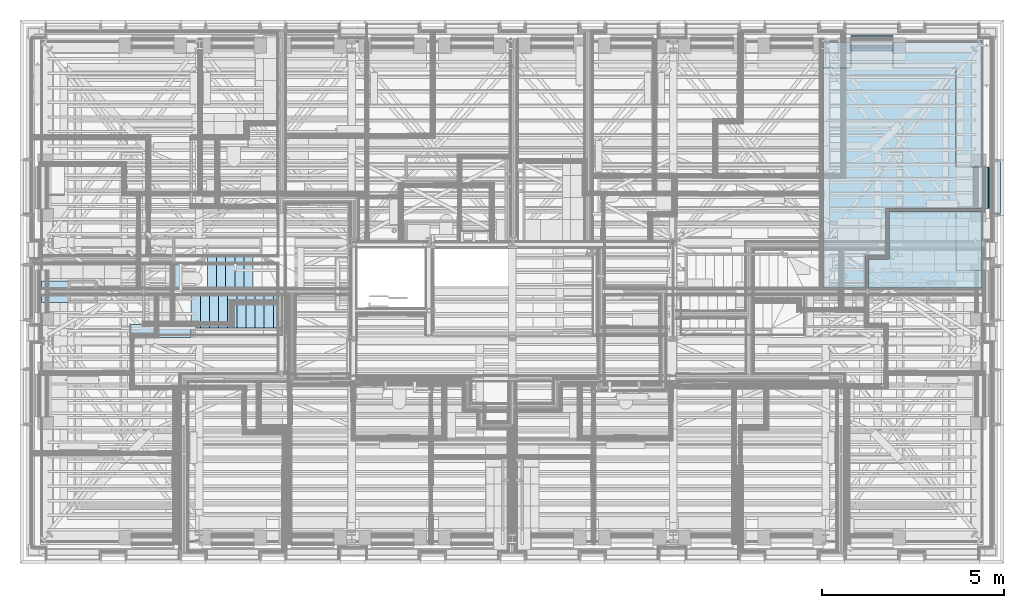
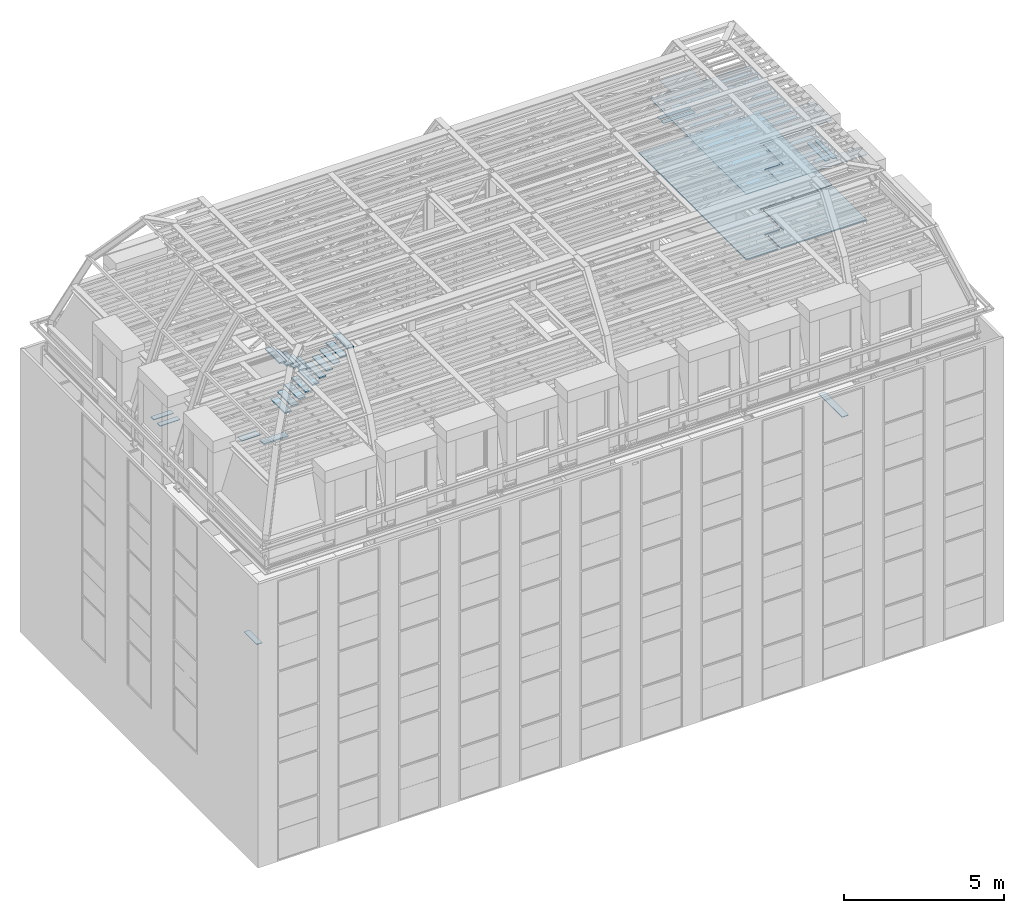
# One storey, part 96 of 183: 34 slabs.
"""IFC2X3 building model written with IfcOpenShell, lengths in metres."""

from ifc_helpers import new_model, entity, si_unit, converted_unit, derived_unit, money_unit, direction, frame, origin_with_axes, place, context, subcontext, project, spatial, faceted_brep, material, type_object, element, save


model = new_model("IFC2X3")

# Units and contexts
model_context = context("Model", 3, precision=1e-05, world=origin_with_axes(), true_north=direction((0.0, 1.0)))
body_context = subcontext(model_context, "Body", "Model", "MODEL_VIEW", scale=1.0)
ifc_project = project(units=[si_unit("LENGTHUNIT", "METRE"), si_unit("AREAUNIT", "SQUARE_METRE"), si_unit("VOLUMEUNIT", "CUBIC_METRE"), si_unit("ABSORBEDDOSEUNIT", "GRAY"), si_unit("AMOUNTOFSUBSTANCEUNIT", "MOLE"), si_unit("DOSEEQUIVALENTUNIT", "SIEVERT"), si_unit("ELECTRICCAPACITANCEUNIT", "FARAD"), si_unit("ELECTRICCHARGEUNIT", "COULOMB"), si_unit("ELECTRICCONDUCTANCEUNIT", "SIEMENS"), si_unit("ELECTRICCURRENTUNIT", "AMPERE"), si_unit("ELECTRICRESISTANCEUNIT", "OHM"), si_unit("ELECTRICVOLTAGEUNIT", "VOLT"), si_unit("ENERGYUNIT", "JOULE"), si_unit("FORCEUNIT", "NEWTON"), si_unit("FREQUENCYUNIT", "HERTZ"), si_unit("ILLUMINANCEUNIT", "LUX"), si_unit("INDUCTANCEUNIT", "HENRY"), si_unit("LUMINOUSFLUXUNIT", "LUMEN"), si_unit("LUMINOUSINTENSITYUNIT", "CANDELA"), si_unit("MAGNETICFLUXDENSITYUNIT", "TESLA"), si_unit("MAGNETICFLUXUNIT", "WEBER"), si_unit("MASSUNIT", "GRAM"), converted_unit("PLANEANGLEUNIT", "degree", entity("IfcReal", 0.0174532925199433), si_unit("PLANEANGLEUNIT", "RADIAN"), dimensions=[0, 0, 0, 0, 0, 0, 0]), si_unit("POWERUNIT", "WATT"), si_unit("PRESSUREUNIT", "PASCAL"), si_unit("RADIOACTIVITYUNIT", "BECQUEREL"), si_unit("SOLIDANGLEUNIT", "STERADIAN"), si_unit("THERMODYNAMICTEMPERATUREUNIT", "KELVIN"), si_unit("TIMEUNIT", "SECOND"), derived_unit("ACCELERATIONUNIT", [(si_unit("LENGTHUNIT", "METRE"), 1), (si_unit("TIMEUNIT", "SECOND"), -2)]), derived_unit("ANGULARVELOCITYUNIT", [(converted_unit("PLANEANGLEUNIT", "degree", entity("IfcReal", 0.0174532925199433), si_unit("PLANEANGLEUNIT", "RADIAN"), dimensions=[0, 0, 0, 0, 0, 0, 0]), 1), (si_unit("TIMEUNIT", "SECOND"), -1)]), derived_unit("CURVATUREUNIT", [(converted_unit("PLANEANGLEUNIT", "degree", entity("IfcReal", 0.0174532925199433), si_unit("PLANEANGLEUNIT", "RADIAN"), dimensions=[0, 0, 0, 0, 0, 0, 0]), 1), (si_unit("LENGTHUNIT", "METRE"), -1)]), derived_unit("DYNAMICVISCOSITYUNIT", [(si_unit("PRESSUREUNIT", "PASCAL"), 1), (si_unit("TIMEUNIT", "SECOND"), 1)]), derived_unit("HEATFLUXDENSITYUNIT", [(si_unit("POWERUNIT", "WATT"), 1), (si_unit("LENGTHUNIT", "METRE"), -2)]), derived_unit("HEATINGVALUEUNIT", [(si_unit("ENERGYUNIT", "JOULE"), 1), (si_unit("MASSUNIT", "GRAM"), -1)]), derived_unit("INTEGERCOUNTRATEUNIT", [(si_unit("TIMEUNIT", "SECOND"), -1)]), derived_unit("IONCONCENTRATIONUNIT", [(si_unit("MASSUNIT", "GRAM"), 1), (si_unit("VOLUMEUNIT", "CUBIC_METRE"), -1)]), derived_unit("ISOTHERMALMOISTURECAPACITYUNIT", [(si_unit("VOLUMEUNIT", "CUBIC_METRE"), 1), (si_unit("MASSUNIT", "GRAM"), -1)]), derived_unit("KINEMATICVISCOSITYUNIT", [(si_unit("AREAUNIT", "SQUARE_METRE"), 1), (si_unit("TIMEUNIT", "SECOND"), -1)]), derived_unit("LINEARFORCEUNIT", [(si_unit("FORCEUNIT", "NEWTON"), 1), (si_unit("LENGTHUNIT", "METRE"), -1)]), derived_unit("LINEARMOMENTUNIT", [(si_unit("FORCEUNIT", "NEWTON"), 1), (si_unit("LENGTHUNIT", "METRE"), -1)]), derived_unit("LINEARSTIFFNESSUNIT", [(si_unit("FORCEUNIT", "NEWTON"), 1), (si_unit("LENGTHUNIT", "METRE"), -1)]), derived_unit("LINEARVELOCITYUNIT", [(si_unit("LENGTHUNIT", "METRE"), 1), (si_unit("TIMEUNIT", "SECOND"), -1)]), derived_unit("LUMINOUSINTENSITYDISTRIBUTIONUNIT", [(si_unit("LUMINOUSINTENSITYUNIT", "CANDELA"), 1), (si_unit("LUMINOUSFLUXUNIT", "LUMEN"), -1)]), derived_unit("MASSDENSITYUNIT", [(si_unit("MASSUNIT", "GRAM"), 1), (si_unit("VOLUMEUNIT", "CUBIC_METRE"), -1)]), derived_unit("MASSFLOWRATEUNIT", [(si_unit("MASSUNIT", "GRAM"), 1), (si_unit("TIMEUNIT", "SECOND"), -1)]), derived_unit("MASSPERLENGTHUNIT", [(si_unit("MASSUNIT", "GRAM"), 1), (si_unit("LENGTHUNIT", "METRE"), -1)]), derived_unit("MODULUSOFELASTICITYUNIT", [(si_unit("FORCEUNIT", "NEWTON"), 1), (si_unit("AREAUNIT", "SQUARE_METRE"), -1)]), derived_unit("MODULUSOFLINEARSUBGRADEREACTIONUNIT", [(si_unit("FORCEUNIT", "NEWTON"), 1), (si_unit("LENGTHUNIT", "METRE"), -2)]), derived_unit("MODULUSOFROTATIONALSUBGRADEREACTIONUNIT", [(si_unit("FORCEUNIT", "NEWTON"), 1), (si_unit("LENGTHUNIT", "METRE"), 1)]), derived_unit("MODULUSOFSUBGRADEREACTIONUNIT", [(si_unit("FORCEUNIT", "NEWTON"), 1), (si_unit("VOLUMEUNIT", "CUBIC_METRE"), -1)]), derived_unit("MOISTUREDIFFUSIVITYUNIT", [(si_unit("VOLUMEUNIT", "CUBIC_METRE"), 1), (si_unit("TIMEUNIT", "SECOND"), -1)]), derived_unit("MOLECULARWEIGHTUNIT", [(si_unit("MASSUNIT", "GRAM"), 1), (si_unit("AMOUNTOFSUBSTANCEUNIT", "MOLE"), -1)]), derived_unit("PLANARFORCEUNIT", [(si_unit("FORCEUNIT", "NEWTON"), 1), (si_unit("LENGTHUNIT", "METRE"), -2)]), derived_unit("ROTATIONALFREQUENCYUNIT", [(si_unit("TIMEUNIT", "SECOND"), -1)]), derived_unit("ROTATIONALMASSUNIT", [(si_unit("MASSUNIT", "GRAM"), 1), (si_unit("LENGTHUNIT", "METRE"), 2)]), derived_unit("ROTATIONALSTIFFNESSUNIT", [(si_unit("FORCEUNIT", "NEWTON"), 1), (si_unit("LENGTHUNIT", "METRE"), 1), (converted_unit("PLANEANGLEUNIT", "degree", entity("IfcReal", 0.0174532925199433), si_unit("PLANEANGLEUNIT", "RADIAN"), dimensions=[0, 0, 0, 0, 0, 0, 0]), -1)]), derived_unit("SECTIONAREAINTEGRALUNIT", [(si_unit("LENGTHUNIT", "METRE"), 5)]), derived_unit("SECTIONMODULUSUNIT", [(si_unit("LENGTHUNIT", "METRE"), 3)]), derived_unit("SHEARMODULUSUNIT", [(si_unit("FORCEUNIT", "NEWTON"), 1), (si_unit("AREAUNIT", "SQUARE_METRE"), -1)]), derived_unit("SOUNDPOWERUNIT", [(si_unit("ENERGYUNIT", "JOULE"), 1), (si_unit("TIMEUNIT", "SECOND"), -1)]), derived_unit("SPECIFICHEATCAPACITYUNIT", [(si_unit("FORCEUNIT", "NEWTON"), 1), (si_unit("MASSUNIT", "GRAM"), -1), (si_unit("THERMODYNAMICTEMPERATUREUNIT", "KELVIN"), -1)]), derived_unit("TEMPERATUREGRADIENTUNIT", [(si_unit("THERMODYNAMICTEMPERATUREUNIT", "KELVIN"), 1), (si_unit("LENGTHUNIT", "METRE"), -1)]), derived_unit("THERMALADMITTANCEUNIT", [(si_unit("POWERUNIT", "WATT"), 1), (si_unit("AREAUNIT", "SQUARE_METRE"), -1), (si_unit("THERMODYNAMICTEMPERATUREUNIT", "KELVIN"), -1)]), derived_unit("THERMALCONDUCTANCEUNIT", [(si_unit("POWERUNIT", "WATT"), 1), (si_unit("LENGTHUNIT", "METRE"), -1), (si_unit("THERMODYNAMICTEMPERATUREUNIT", "KELVIN"), -1)]), derived_unit("THERMALEXPANSIONCOEFFICIENTUNIT", [(si_unit("THERMODYNAMICTEMPERATUREUNIT", "KELVIN"), -1)]), derived_unit("THERMALRESISTANCEUNIT", [(si_unit("AREAUNIT", "SQUARE_METRE"), 1), (si_unit("POWERUNIT", "WATT"), -1)]), derived_unit("THERMALTRANSMITTANCEUNIT", [(si_unit("POWERUNIT", "WATT"), 1), (si_unit("AREAUNIT", "SQUARE_METRE"), -1), (si_unit("THERMODYNAMICTEMPERATUREUNIT", "KELVIN"), -1)]), derived_unit("TORQUEUNIT", [(si_unit("FORCEUNIT", "NEWTON"), 1), (si_unit("LENGTHUNIT", "METRE"), 1)]), derived_unit("VAPORPERMEABILITYUNIT", [(si_unit("MASSUNIT", "GRAM"), 1), (si_unit("TIMEUNIT", "SECOND"), -1)]), derived_unit("VOLUMETRICFLOWRATEUNIT", [(si_unit("VOLUMEUNIT", "CUBIC_METRE"), 1), (si_unit("TIMEUNIT", "SECOND"), -1)]), derived_unit("WARPINGCONSTANTUNIT", [(si_unit("LENGTHUNIT", "METRE"), 6)]), derived_unit("WARPINGMOMENTUNIT", [(si_unit("FORCEUNIT", "NEWTON"), 1), (si_unit("LENGTHUNIT", "METRE"), 2)]), money_unit("GBP")], contexts=[model_context])

# Site, building, storey
site_placement = place(None, origin_with_axes())
site = spatial("IfcSite", under=ifc_project, at=site_placement, Name="Site", CompositionType="ELEMENT")
building_placement = place(site_placement, origin_with_axes())
building = spatial("IfcBuilding", under=site, at=building_placement, Name="Building01", CompositionType="ELEMENT")
storey_placement = place(building_placement, frame((0.0, 0.0, 5.15), z_axis=(0.0, 0.0, 1.0), x_axis=(1.0, 0.0, 0.0)))
storey = spatial("IfcBuildingStorey", under=building, at=storey_placement, Name="1F", CompositionType="ELEMENT", Elevation=5.15)

# Slabs
ifc_material_1 = material(Name="A_BSUK_Ceramic_WallTiles")
slab_type_1 = type_object("IfcSlabType", Name="A-FloorsSlabs A_BSUK_Slabs", PredefinedType="FLOOR")
slab_1_placement = place(storey_placement, frame((4.44073, 6.914372, 1.375), z_axis=(0.0, 0.0, 1.0), x_axis=(0.0, 1.0, 0.0)))
element("IfcSlab", 1, at=slab_1_placement, inside=storey, type_object=slab_type_1, material=ifc_material_1, Name="A-FloorsSlabs A_BSUK_Slabs", ObjectType="A-FloorsSlabs A_BSUK_Slabs", context=body_context, shape_type="Brep", body=[
    faceted_brep([(0.496298, 1e-06, 0.0), (0.496298, 1e-06, 0.025), (0.496298, 0.2, 0.025), (0.496298, 0.2, 0.0), (1.296298, 4e-06, 0.0), (1.296298, 4e-06, 0.025), (1.296298, 0.2, 0.0), (1.296298, 0.2, 0.025)], [[[0, 1, 2, 3]], [[4, 5, 1, 0]], [[6, 7, 5, 4]], [[3, 2, 7, 6]], [[1, 5, 7, 2]], [[3, 6, 4, 0]]]),
])
ifc_material_2 = material(Name="A_BSUK_Timber_Miscellaneous")
placement = place(storey_placement, frame((0.0, 0.0, -5.15), z_axis=(0.0, 0.0, 1.0), x_axis=(1.0, 0.0, 0.0)))
element("IfcSlab", 2, at=placement, inside=storey, type_object=slab_type_1, material=ifc_material_2, Name="A-FloorsSlabs A_BSUK_Slabs", ObjectType="CompoundSlabLeaf", context=body_context, shape_type="Brep", body=[
    faceted_brep([(26.88, 9.56218, 6.065), (26.88, 9.56218, 6.09), (26.646998, 9.56218, 6.09), (26.646998, 9.56218, 6.065), (26.88, 11.03218, 6.065), (26.88, 11.03218, 6.09), (26.647, 11.03218, 6.065), (26.647, 11.03218, 6.09)], [[[0, 1, 2, 3]], [[4, 5, 1, 0]], [[6, 7, 5, 4]], [[3, 2, 7, 6]], [[1, 5, 7, 2]], [[3, 6, 4, 0]]]),
])
slab_3_placement = place(storey_placement, frame((26.404661, 10.874964, 10.78), z_axis=(0.0, 0.0, 1.0), x_axis=(0.0, -1.0, 0.0)))
element("IfcSlab", 3, at=slab_3_placement, inside=storey, type_object=slab_type_1, material=ifc_material_2, Name="A-FloorsSlabs A_BSUK_Slabs", ObjectType="A-FloorsSlabs A_BSUK_Slabs", context=body_context, shape_type="Brep", body=[
    faceted_brep([(0.0, 0.0, 0.0), (1.15, 0.0, 0.0), (1.15, 0.0, 0.022498), (0.0, 0.0, 0.022498), (1.15, 0.142391, 0.017505), (0.0, 0.142391, 0.017505), (1.15, 0.148079, 0.0), (0.0, 0.148079, 0.0)], [[[0, 1, 2, 3]], [[3, 2, 4, 5]], [[5, 4, 6, 7]], [[7, 6, 1, 0]], [[1, 6, 4, 2]], [[3, 5, 7, 0]]]),
])
ifc_material_3 = material(Name="A_BSUK_Steel_Miscellaneous")
slab_4_placement = place(storey_placement, frame((26.404661, 10.874964, 10.802498), z_axis=(0.0, 0.0, 1.0), x_axis=(0.0, -1.0, 0.0)))
element("IfcSlab", 4, at=slab_4_placement, inside=storey, type_object=slab_type_1, material=ifc_material_3, Name="A-FloorsSlabs A_BSUK_Slabs", ObjectType="A-FloorsSlabs A_BSUK_Slabs", context=body_context, shape_type="Brep", body=[
    faceted_brep([(0.0, 0.0, 0.0), (1.15, 0.0, 0.0), (1.15, 0.0, 0.007502), (0.0, 0.0, 0.007502), (1.15, 0.001, 0.007502), (0.0, 0.001, 0.007502), (1.15, 0.0025, 0.002414), (0.0, 0.0025, 0.002414), (1.15, 0.144228, -0.002556), (0.0, 0.144228, -0.002556), (1.15, 0.183199, -0.122498), (0.0, 0.183199, -0.122498), (1.15, 0.183199, -0.127498), (0.0, 0.183199, -0.127498), (1.15, 0.180699, -0.127498), (0.0, 0.180699, -0.127498), (1.15, 0.180699, -0.122894), (0.0, 0.180699, -0.122894), (1.15, 0.142391, -0.004993), (0.0, 0.142391, -0.004993)], [[[0, 1, 2, 3]], [[3, 2, 4, 5]], [[5, 4, 6, 7]], [[7, 6, 8, 9]], [[9, 8, 10, 11]], [[11, 10, 12, 13]], [[13, 12, 14, 15]], [[15, 14, 16, 17]], [[17, 16, 18, 19]], [[19, 18, 1, 0]], [[1, 18, 16, 14, 12, 10, 8, 6, 4, 2]], [[3, 5, 7, 9, 11, 13, 15, 17, 19, 0]]]),
])
element("IfcSlab", 5, at=placement, inside=storey, type_object=slab_type_1, material=ifc_material_1, Name="A-FloorsSlabs A_BSUK_Slabs", ObjectType="CompoundSlabLeaf", context=body_context, shape_type="Brep", body=[
    faceted_brep([(3.039976, 6.279939, 15.405), (3.039976, 6.279939, 15.43), (3.039976, 6.549939, 15.43), (3.039976, 6.549939, 15.405), (3.715111, 6.279939, 15.405), (3.715111, 6.279939, 15.43), (3.715111, 6.549939, 15.405), (3.715111, 6.549939, 15.43)], [[[0, 1, 2, 3]], [[4, 5, 1, 0]], [[6, 7, 5, 4]], [[3, 2, 7, 6]], [[1, 5, 7, 2]], [[3, 6, 4, 0]]]),
])
ifc_material_4 = material(Name="A_BSUK_CeilingSoffitFinishes_Suspended")
element("IfcSlab", 6, at=placement, inside=storey, type_object=slab_type_1, material=ifc_material_4, Name="A-FloorsSlabs A_BSUK_Slabs", ObjectType="CompoundSlabLeaf", context=body_context, shape_type="Brep", body=[
    faceted_brep([(22.019976, 7.549915, 17.423), (22.019976, 7.549915, 17.438), (22.019976, 13.587598, 17.438), (22.019976, 13.587598, 17.423), (23.178821, 7.549915, 17.423), (23.178821, 7.549915, 17.438), (23.178821, 8.429915, 17.423), (23.178821, 8.429915, 17.438), (23.75, 8.429915, 17.423), (23.75, 8.429915, 17.438), (23.75, 9.724915, 17.423), (23.75, 9.724915, 17.438), (26.380061, 9.724915, 17.423), (26.380061, 9.724915, 17.438), (26.380061, 10.874915, 17.423), (26.380061, 10.874915, 17.438), (25.667598, 10.874915, 17.423), (25.667598, 10.874915, 17.438), (25.667598, 13.587598, 17.423), (25.667598, 13.587598, 17.438), (23.930024, 13.587598, 17.423), (23.930024, 13.587598, 17.438), (23.930024, 14.300061, 17.423), (23.930024, 14.300061, 17.438), (22.780024, 14.300061, 17.423), (22.780024, 14.300061, 17.438), (22.780024, 13.587598, 17.423), (22.780024, 13.587598, 17.438)], [[[0, 1, 2, 3]], [[4, 5, 1, 0]], [[6, 7, 5, 4]], [[8, 9, 7, 6]], [[10, 11, 9, 8]], [[12, 13, 11, 10]], [[14, 15, 13, 12]], [[16, 17, 15, 14]], [[18, 19, 17, 16]], [[20, 21, 19, 18]], [[22, 23, 21, 20]], [[24, 25, 23, 22]], [[26, 27, 25, 24]], [[3, 2, 27, 26]], [[1, 5, 7, 9, 11, 13, 15, 17, 19, 21, 23, 25, 27, 2]], [[3, 26, 24, 22, 20, 18, 16, 14, 12, 10, 8, 6, 4, 0]]]),
])
element("IfcSlab", 7, at=placement, inside=storey, type_object=slab_type_1, material=ifc_material_4, Name="A-FloorsSlabs A_BSUK_Slabs", ObjectType="CompoundSlabLeaf", context=body_context, shape_type="Brep", body=[
    faceted_brep([(23.83, 8.349915, 17.423), (23.83, 8.349915, 17.438), (23.83, 9.645024, 17.438), (23.83, 9.645024, 17.423), (23.258821, 8.349915, 17.423), (23.258821, 8.349915, 17.438), (23.258821, 7.549915, 17.423), (23.258821, 7.549915, 17.438), (26.380061, 7.549915, 17.423), (26.380061, 7.549915, 17.438), (26.380061, 8.024915, 17.423), (26.380061, 8.024915, 17.438), (25.667598, 8.024915, 17.423), (25.667598, 8.024915, 17.438), (25.667598, 9.645085, 17.423), (25.667598, 9.645085, 17.438)], [[[0, 1, 2, 3]], [[4, 5, 1, 0]], [[6, 7, 5, 4]], [[8, 9, 7, 6]], [[10, 11, 9, 8]], [[12, 13, 11, 10]], [[14, 15, 13, 12]], [[3, 2, 15, 14]], [[1, 5, 7, 9, 11, 13, 15, 2]], [[3, 14, 12, 10, 8, 6, 4, 0]]]),
])
ifc_material_5 = material(Name="A_BSUK_ExpandedPolystyreneBoards")
element("IfcSlab", 8, at=placement, inside=storey, type_object=slab_type_1, material=ifc_material_5, Name="A-FloorsSlabs A_BSUK_Slabs", ObjectType="CompoundSlabLeaf", context=body_context, shape_type="Brep", body=[
    faceted_brep([(22.019976, 7.549915, 14.92), (22.019976, 7.549915, 14.952), (22.019976, 14.2962, 14.952), (22.019976, 14.2962, 14.92), (23.178821, 7.549915, 14.92), (23.178821, 7.549915, 14.952), (23.178821, 8.429915, 14.92), (23.178821, 8.429915, 14.952), (23.75, 8.429915, 14.92), (23.75, 8.429915, 14.952), (23.75, 9.724915, 14.92), (23.75, 9.724915, 14.952), (26.3762, 9.724915, 14.92), (26.3762, 9.724915, 14.952), (26.3762, 10.874915, 14.92), (26.3762, 10.874915, 14.952), (26.3762, 14.2962, 14.92), (26.3762, 14.2962, 14.952), (23.930024, 14.2962, 14.92), (23.930024, 14.2962, 14.952), (22.780024, 14.2962, 14.92), (22.780024, 14.2962, 14.952)], [[[0, 1, 2, 3]], [[4, 5, 1, 0]], [[6, 7, 5, 4]], [[8, 9, 7, 6]], [[10, 11, 9, 8]], [[12, 13, 11, 10]], [[14, 15, 13, 12]], [[16, 17, 15, 14]], [[18, 19, 17, 16]], [[20, 21, 19, 18]], [[3, 2, 21, 20]], [[1, 5, 7, 9, 11, 13, 15, 17, 19, 21, 2]], [[3, 20, 18, 16, 14, 12, 10, 8, 6, 4, 0]]]),
])
element("IfcSlab", 9, at=placement, inside=storey, type_object=slab_type_1, material=ifc_material_5, Name="A-FloorsSlabs A_BSUK_Slabs", ObjectType="CompoundSlabLeaf", context=body_context, shape_type="Brep", body=[
    faceted_brep([(23.83, 8.349915, 14.92), (23.83, 8.349915, 14.952), (23.83, 9.645024, 14.952), (23.83, 9.645024, 14.92), (23.258821, 8.349915, 14.92), (23.258821, 8.349915, 14.952), (23.258821, 7.549915, 14.92), (23.258821, 7.549915, 14.952), (26.3762, 7.549915, 14.92), (26.3762, 7.549915, 14.952), (26.3762, 8.024915, 14.92), (26.3762, 8.024915, 14.952), (26.3762, 9.645108, 14.92), (26.3762, 9.645108, 14.952)], [[[0, 1, 2, 3]], [[4, 5, 1, 0]], [[6, 7, 5, 4]], [[8, 9, 7, 6]], [[10, 11, 9, 8]], [[12, 13, 11, 10]], [[3, 2, 13, 12]], [[1, 5, 7, 9, 11, 13, 2]], [[3, 12, 10, 8, 6, 4, 0]]]),
])
element("IfcSlab", 10, at=placement, inside=storey, type_object=slab_type_1, material=ifc_material_2, Name="A-FloorsSlabs A_BSUK_Slabs", ObjectType="CompoundSlabLeaf", context=body_context, shape_type="Brep", body=[
    faceted_brep([(23.930024, 14.224661, 15.93), (23.930024, 14.224661, 15.955), (23.930024, 14.050061, 15.955), (23.930024, 14.050061, 15.93), (22.780024, 14.224661, 15.93), (22.780024, 14.224661, 15.955), (22.780024, 14.050062, 15.93), (22.780024, 14.050062, 15.955)], [[[0, 1, 2, 3]], [[4, 5, 1, 0]], [[6, 7, 5, 4]], [[3, 2, 7, 6]], [[1, 5, 7, 2]], [[3, 6, 4, 0]]]),
])
element("IfcSlab", 11, at=placement, inside=storey, type_object=slab_type_1, material=ifc_material_2, Name="A-FloorsSlabs A_BSUK_Slabs", ObjectType="CompoundSlabLeaf", context=body_context, shape_type="Brep", body=[
    faceted_brep([(26.304661, 9.724915, 15.93), (26.304661, 9.724915, 15.955), (26.130059, 9.724915, 15.955), (26.130059, 9.724915, 15.93), (26.304661, 10.874915, 15.93), (26.304661, 10.874915, 15.955), (26.130061, 10.874915, 15.93), (26.130061, 10.874915, 15.955)], [[[0, 1, 2, 3]], [[4, 5, 1, 0]], [[6, 7, 5, 4]], [[3, 2, 7, 6]], [[1, 5, 7, 2]], [[3, 6, 4, 0]]]),
])
element("IfcSlab", 12, at=placement, inside=storey, type_object=slab_type_1, material=ifc_material_2, Name="A-FloorsSlabs A_BSUK_Slabs", ObjectType="CompoundSlabLeaf", context=body_context, shape_type="Brep", body=[
    faceted_brep([(23.929976, 14.324696, 15.952498), (22.779976, 14.324696, 15.952498), (22.779976, 14.324696, 15.93), (23.929976, 14.324696, 15.93), (23.929976, 14.467086, 15.947505), (22.779976, 14.467086, 15.947505), (23.929976, 14.472774, 15.93), (22.779976, 14.472774, 15.93)], [[[0, 1, 2, 3]], [[4, 5, 1, 0]], [[6, 7, 5, 4]], [[3, 2, 7, 6]], [[1, 5, 7, 2]], [[3, 6, 4, 0]]]),
])
element("IfcSlab", 13, at=placement, inside=storey, type_object=slab_type_1, material=ifc_material_4, Name="A-FloorsSlabs A_BSUK_Slabs", ObjectType="CompoundSlabLeaf", context=body_context, shape_type="Brep", body=[
    faceted_brep([(22.019976, 7.549915, 17.438), (22.019976, 7.549915, 17.453), (22.019976, 13.587598, 17.453), (22.019976, 13.587598, 17.438), (23.178821, 7.549915, 17.438), (23.178821, 7.549915, 17.453), (23.178821, 8.429915, 17.438), (23.178821, 8.429915, 17.453), (23.75, 8.429915, 17.438), (23.75, 8.429915, 17.453), (23.75, 9.724915, 17.438), (23.75, 9.724915, 17.453), (26.380061, 9.724915, 17.438), (26.380061, 9.724915, 17.453), (26.380061, 10.874915, 17.438), (26.380061, 10.874915, 17.453), (25.667598, 10.874915, 17.438), (25.667598, 10.874915, 17.453), (25.667598, 13.587598, 17.438), (25.667598, 13.587598, 17.453), (23.930024, 13.587598, 17.438), (23.930024, 13.587598, 17.453), (23.930024, 14.300061, 17.438), (23.930024, 14.300061, 17.453), (22.780024, 14.300061, 17.438), (22.780024, 14.300061, 17.453), (22.780024, 13.587598, 17.438), (22.780024, 13.587598, 17.453)], [[[0, 1, 2, 3]], [[4, 5, 1, 0]], [[6, 7, 5, 4]], [[8, 9, 7, 6]], [[10, 11, 9, 8]], [[12, 13, 11, 10]], [[14, 15, 13, 12]], [[16, 17, 15, 14]], [[18, 19, 17, 16]], [[20, 21, 19, 18]], [[22, 23, 21, 20]], [[24, 25, 23, 22]], [[26, 27, 25, 24]], [[3, 2, 27, 26]], [[1, 5, 7, 9, 11, 13, 15, 17, 19, 21, 23, 25, 27, 2]], [[3, 26, 24, 22, 20, 18, 16, 14, 12, 10, 8, 6, 4, 0]]]),
])
element("IfcSlab", 14, at=placement, inside=storey, type_object=slab_type_1, material=ifc_material_4, Name="A-FloorsSlabs A_BSUK_Slabs", ObjectType="CompoundSlabLeaf", context=body_context, shape_type="Brep", body=[
    faceted_brep([(23.83, 8.349915, 17.438), (23.83, 8.349915, 17.453), (23.83, 9.645024, 17.453), (23.83, 9.645024, 17.438), (23.258821, 8.349915, 17.438), (23.258821, 8.349915, 17.453), (23.258821, 7.549915, 17.438), (23.258821, 7.549915, 17.453), (26.380061, 7.549915, 17.438), (26.380061, 7.549915, 17.453), (26.380061, 8.024915, 17.438), (26.380061, 8.024915, 17.453), (25.667598, 8.024915, 17.438), (25.667598, 8.024915, 17.453), (25.667598, 9.645085, 17.438), (25.667598, 9.645085, 17.453)], [[[0, 1, 2, 3]], [[4, 5, 1, 0]], [[6, 7, 5, 4]], [[8, 9, 7, 6]], [[10, 11, 9, 8]], [[12, 13, 11, 10]], [[14, 15, 13, 12]], [[3, 2, 15, 14]], [[1, 5, 7, 9, 11, 13, 15, 2]], [[3, 14, 12, 10, 8, 6, 4, 0]]]),
])
ifc_material_6 = material(Name="A_BSUK_Slabs")
element("IfcSlab", 15, at=placement, inside=storey, type_object=slab_type_1, material=ifc_material_6, Name="A-FloorsSlabs A_BSUK_Slabs", ObjectType="CompoundSlabLeaf", context=body_context, shape_type="Brep", body=[
    faceted_brep([(6.945111, 7.349939, 17.45), (6.945111, 7.349939, 17.5), (7.195111, 7.349939, 17.5), (7.195111, 7.349939, 17.45), (6.945111, 6.449939, 17.45), (6.945111, 6.449939, 17.5), (7.195111, 6.449939, 17.45), (7.195111, 6.449939, 17.5)], [[[0, 1, 2, 3]], [[4, 5, 1, 0]], [[6, 7, 5, 4]], [[3, 2, 7, 6]], [[1, 5, 7, 2]], [[3, 6, 4, 0]]]),
])
element("IfcSlab", 16, at=placement, inside=storey, type_object=slab_type_1, material=ifc_material_6, Name="A-FloorsSlabs A_BSUK_Slabs", ObjectType="CompoundSlabLeaf", context=body_context, shape_type="Brep", body=[
    faceted_brep([(6.695111, 7.349939, 17.22), (6.695111, 7.349939, 17.27), (6.945111, 7.349939, 17.27), (6.945111, 7.349939, 17.22), (6.695111, 6.449939, 17.22), (6.695111, 6.449939, 17.27), (6.945111, 6.449939, 17.22), (6.945111, 6.449939, 17.27)], [[[0, 1, 2, 3]], [[4, 5, 1, 0]], [[6, 7, 5, 4]], [[3, 2, 7, 6]], [[1, 5, 7, 2]], [[3, 6, 4, 0]]]),
])
element("IfcSlab", 17, at=placement, inside=storey, type_object=slab_type_1, material=ifc_material_6, Name="A-FloorsSlabs A_BSUK_Slabs", ObjectType="CompoundSlabLeaf", context=body_context, shape_type="Brep", body=[
    faceted_brep([(6.445111, 7.349939, 17.04), (6.445111, 7.349939, 17.09), (6.695111, 7.349939, 17.09), (6.695111, 7.349939, 17.04), (6.445111, 6.449939, 17.04), (6.445111, 6.449939, 17.09), (6.695111, 6.449939, 17.04), (6.695111, 6.449939, 17.09)], [[[0, 1, 2, 3]], [[4, 5, 1, 0]], [[6, 7, 5, 4]], [[3, 2, 7, 6]], [[1, 5, 7, 2]], [[3, 6, 4, 0]]]),
])
element("IfcSlab", 18, at=placement, inside=storey, type_object=slab_type_1, material=ifc_material_6, Name="A-FloorsSlabs A_BSUK_Slabs", ObjectType="CompoundSlabLeaf", context=body_context, shape_type="Brep", body=[
    faceted_brep([(6.195111, 7.349939, 16.86), (6.195111, 7.349939, 16.91), (6.445111, 7.349939, 16.91), (6.445111, 7.349939, 16.86), (6.195111, 6.449939, 16.86), (6.195111, 6.449939, 16.91), (6.445111, 6.449939, 16.86), (6.445111, 6.449939, 16.91)], [[[0, 1, 2, 3]], [[4, 5, 1, 0]], [[6, 7, 5, 4]], [[3, 2, 7, 6]], [[1, 5, 7, 2]], [[3, 6, 4, 0]]]),
])
element("IfcSlab", 19, at=placement, inside=storey, type_object=slab_type_1, material=ifc_material_6, Name="A-FloorsSlabs A_BSUK_Slabs", ObjectType="CompoundSlabLeaf", context=body_context, shape_type="Brep", body=[
    faceted_brep([(5.945111, 7.349939, 16.68), (5.945111, 7.349939, 16.73), (6.195111, 7.349939, 16.73), (6.195111, 7.349939, 16.68), (5.945111, 6.449939, 16.68), (5.945111, 6.449939, 16.73), (6.195111, 6.449939, 16.68), (6.195111, 6.449939, 16.73)], [[[0, 1, 2, 3]], [[4, 5, 1, 0]], [[6, 7, 5, 4]], [[3, 2, 7, 6]], [[1, 5, 7, 2]], [[3, 6, 4, 0]]]),
])
element("IfcSlab", 20, at=placement, inside=storey, type_object=slab_type_1, material=ifc_material_6, Name="A-FloorsSlabs A_BSUK_Slabs", ObjectType="CompoundSlabLeaf", context=body_context, shape_type="Brep", body=[
    faceted_brep([(5.695111, 7.349939, 16.5), (5.695111, 7.349939, 16.55), (5.945111, 7.349939, 16.55), (5.945111, 7.349939, 16.5), (5.695111, 6.449939, 16.5), (5.695111, 6.449939, 16.55), (5.945111, 6.449939, 16.5), (5.945111, 6.449939, 16.55)], [[[0, 1, 2, 3]], [[4, 5, 1, 0]], [[6, 7, 5, 4]], [[3, 2, 7, 6]], [[1, 5, 7, 2]], [[3, 6, 4, 0]]]),
])
element("IfcSlab", 21, at=placement, inside=storey, type_object=slab_type_1, material=ifc_material_6, Name="A-FloorsSlabs A_BSUK_Slabs", ObjectType="CompoundSlabLeaf", context=body_context, shape_type="Brep", body=[
    faceted_brep([(5.445111, 7.349939, 16.32), (5.445111, 7.349939, 16.37), (5.695111, 7.349939, 16.37), (5.695111, 7.349939, 16.32), (5.445111, 6.449939, 16.32), (5.445111, 6.449939, 16.37), (5.695111, 6.449939, 16.32), (5.695111, 6.449939, 16.37)], [[[0, 1, 2, 3]], [[4, 5, 1, 0]], [[6, 7, 5, 4]], [[3, 2, 7, 6]], [[1, 5, 7, 2]], [[3, 6, 4, 0]]]),
])
element("IfcSlab", 22, at=placement, inside=storey, type_object=slab_type_1, material=ifc_material_6, Name="A-FloorsSlabs A_BSUK_Slabs", ObjectType="CompoundSlabLeaf", context=body_context, shape_type="Brep", body=[
    faceted_brep([(5.195111, 7.349939, 16.14), (5.195111, 7.349939, 16.19), (5.445111, 7.349939, 16.19), (5.445111, 7.349939, 16.14), (5.195111, 6.449939, 16.14), (5.195111, 6.449939, 16.19), (5.445111, 6.449939, 16.14), (5.445111, 6.449939, 16.19)], [[[0, 1, 2, 3]], [[4, 5, 1, 0]], [[6, 7, 5, 4]], [[3, 2, 7, 6]], [[1, 5, 7, 2]], [[3, 6, 4, 0]]]),
])
element("IfcSlab", 23, at=placement, inside=storey, type_object=slab_type_1, material=ifc_material_6, Name="A-FloorsSlabs A_BSUK_Slabs", ObjectType="CompoundSlabLeaf", context=body_context, shape_type="Brep", body=[
    faceted_brep([(4.945111, 7.349939, 15.96), (4.945111, 7.349939, 16.01), (5.195111, 7.349939, 16.01), (5.195111, 7.349939, 15.96), (4.945111, 6.449939, 15.96), (4.945111, 6.449939, 16.01), (5.195111, 6.449939, 15.96), (5.195111, 6.449939, 16.01)], [[[0, 1, 2, 3]], [[4, 5, 1, 0]], [[6, 7, 5, 4]], [[3, 2, 7, 6]], [[1, 5, 7, 2]], [[3, 6, 4, 0]]]),
])
element("IfcSlab", 24, at=placement, inside=storey, type_object=slab_type_1, material=ifc_material_6, Name="A-FloorsSlabs A_BSUK_Slabs", ObjectType="CompoundSlabLeaf", context=body_context, shape_type="Brep", body=[
    faceted_brep([(4.695111, 7.349939, 15.78), (4.695111, 7.349939, 15.83), (4.945111, 7.349939, 15.83), (4.945111, 7.349939, 15.78), (4.695111, 6.449939, 15.78), (4.695111, 6.449939, 15.83), (4.945111, 6.449939, 15.78), (4.945111, 6.449939, 15.83)], [[[0, 1, 2, 3]], [[4, 5, 1, 0]], [[6, 7, 5, 4]], [[3, 2, 7, 6]], [[1, 5, 7, 2]], [[3, 6, 4, 0]]]),
])
element("IfcSlab", 25, at=placement, inside=storey, type_object=slab_type_1, material=ifc_material_6, Name="A-FloorsSlabs A_BSUK_Slabs", ObjectType="CompoundSlabLeaf", context=body_context, shape_type="Brep", body=[
    faceted_brep([(4.695111, 6.449939, 15.06), (4.695111, 6.449939, 15.11), (4.695111, 6.199939, 15.11), (4.695111, 6.199939, 15.06), (3.795111, 6.449939, 15.06), (3.795111, 6.449939, 15.11), (3.795111, 6.199939, 15.06), (3.795111, 6.199939, 15.11)], [[[0, 1, 2, 3]], [[4, 5, 1, 0]], [[6, 7, 5, 4]], [[3, 2, 7, 6]], [[1, 5, 7, 2]], [[3, 6, 4, 0]]]),
])
element("IfcSlab", 26, at=placement, inside=storey, type_object=slab_type_1, material=ifc_material_6, Name="A-FloorsSlabs A_BSUK_Slabs", ObjectType="CompoundSlabLeaf", context=body_context, shape_type="Brep", body=[
    faceted_brep([(5.39, 7.549939, 16.86), (5.39, 7.549939, 16.91), (5.14, 7.549939, 16.91), (5.14, 7.549939, 16.86), (5.39, 8.449939, 16.86), (5.39, 8.449939, 16.91), (5.14, 8.449939, 16.86), (5.14, 8.449939, 16.91)], [[[0, 1, 2, 3]], [[4, 5, 1, 0]], [[6, 7, 5, 4]], [[3, 2, 7, 6]], [[1, 5, 7, 2]], [[3, 6, 4, 0]]]),
])
element("IfcSlab", 27, at=placement, inside=storey, type_object=slab_type_1, material=ifc_material_6, Name="A-FloorsSlabs A_BSUK_Slabs", ObjectType="CompoundSlabLeaf", context=body_context, shape_type="Brep", body=[
    faceted_brep([(5.64, 7.549939, 16.68), (5.64, 7.549939, 16.73), (5.39, 7.549939, 16.73), (5.39, 7.549939, 16.68), (5.64, 8.449939, 16.68), (5.64, 8.449939, 16.73), (5.39, 8.449939, 16.68), (5.39, 8.449939, 16.73)], [[[0, 1, 2, 3]], [[4, 5, 1, 0]], [[6, 7, 5, 4]], [[3, 2, 7, 6]], [[1, 5, 7, 2]], [[3, 6, 4, 0]]]),
])
element("IfcSlab", 28, at=placement, inside=storey, type_object=slab_type_1, material=ifc_material_6, Name="A-FloorsSlabs A_BSUK_Slabs", ObjectType="CompoundSlabLeaf", context=body_context, shape_type="Brep", body=[
    faceted_brep([(5.89, 7.549939, 16.5), (5.89, 7.549939, 16.55), (5.64, 7.549939, 16.55), (5.64, 7.549939, 16.5), (5.89, 8.449939, 16.5), (5.89, 8.449939, 16.55), (5.64, 8.449939, 16.5), (5.64, 8.449939, 16.55)], [[[0, 1, 2, 3]], [[4, 5, 1, 0]], [[6, 7, 5, 4]], [[3, 2, 7, 6]], [[1, 5, 7, 2]], [[3, 6, 4, 0]]]),
])
element("IfcSlab", 29, at=placement, inside=storey, type_object=slab_type_1, material=ifc_material_6, Name="A-FloorsSlabs A_BSUK_Slabs", ObjectType="CompoundSlabLeaf", context=body_context, shape_type="Brep", body=[
    faceted_brep([(6.14, 7.549939, 16.32), (6.14, 7.549939, 16.37), (5.89, 7.549939, 16.37), (5.89, 7.549939, 16.32), (6.14, 8.449939, 16.32), (6.14, 8.449939, 16.37), (5.89, 8.449939, 16.32), (5.89, 8.449939, 16.37)], [[[0, 1, 2, 3]], [[4, 5, 1, 0]], [[6, 7, 5, 4]], [[3, 2, 7, 6]], [[1, 5, 7, 2]], [[3, 6, 4, 0]]]),
])
element("IfcSlab", 30, at=placement, inside=storey, type_object=slab_type_1, material=ifc_material_6, Name="A-FloorsSlabs A_BSUK_Slabs", ObjectType="CompoundSlabLeaf", context=body_context, shape_type="Brep", body=[
    faceted_brep([(6.39, 7.549939, 16.14), (6.39, 7.549939, 16.19), (6.14, 7.549939, 16.19), (6.14, 7.549939, 16.14), (6.39, 8.449939, 16.14), (6.39, 8.449939, 16.19), (6.14, 8.449939, 16.14), (6.14, 8.449939, 16.19)], [[[0, 1, 2, 3]], [[4, 5, 1, 0]], [[6, 7, 5, 4]], [[3, 2, 7, 6]], [[1, 5, 7, 2]], [[3, 6, 4, 0]]]),
])
element("IfcSlab", 31, at=placement, inside=storey, type_object=slab_type_1, material=ifc_material_1, Name="A-FloorsSlabs A_BSUK_Slabs", ObjectType="CompoundSlabLeaf", context=body_context, shape_type="Brep", body=[
    faceted_brep([(0.593871, 7.14994, 16.305), (0.593871, 7.14994, 16.33), (0.593871, 7.349938, 16.33), (0.593871, 7.349938, 16.305), (1.315111, 7.14994, 16.305), (1.315111, 7.14994, 16.33), (1.315111, 7.349938, 16.305), (1.315111, 7.349938, 16.33)], [[[0, 1, 2, 3]], [[4, 5, 1, 0]], [[6, 7, 5, 4]], [[3, 2, 7, 6]], [[1, 5, 7, 2]], [[3, 6, 4, 0]]]),
])
element("IfcSlab", 32, at=placement, inside=storey, type_object=slab_type_1, material=ifc_material_1, Name="A-FloorsSlabs A_BSUK_Slabs", ObjectType="CompoundSlabLeaf", context=body_context, shape_type="Brep", body=[
    faceted_brep([(0.593871, 7.550063, 16.305), (0.593871, 7.550063, 16.33), (0.593871, 7.75006, 16.33), (0.593871, 7.75006, 16.305), (1.315111, 7.550063, 16.305), (1.315111, 7.550063, 16.33), (1.315111, 7.75006, 16.305), (1.315111, 7.75006, 16.33)], [[[0, 1, 2, 3]], [[4, 5, 1, 0]], [[6, 7, 5, 4]], [[3, 2, 7, 6]], [[1, 5, 7, 2]], [[3, 6, 4, 0]]]),
])
ifc_material_7 = material(Name="A_BSUK_Ceramic_FloorTiles")
slab_type_2 = type_object("IfcSlabType", Name="A-Finishes A_BSUK_Ceramic_FloorTiles", PredefinedType="FLOOR")
element("IfcSlab", 33, at=placement, inside=storey, type_object=slab_type_2, material=ifc_material_7, Name="A-Finishes A_BSUK_Ceramic_FloorTiles", ObjectType="CompoundSlabLeaf", context=body_context, shape_type="Brep", body=[
    faceted_brep([(23.83, 8.349915, 14.952), (23.83, 8.349915, 14.964), (23.83, 9.645024, 14.964), (23.83, 9.645024, 14.952), (23.258821, 8.349915, 14.952), (23.258821, 8.349915, 14.964), (23.258821, 7.549915, 14.952), (23.258821, 7.549915, 14.964), (26.3762, 7.549915, 14.952), (26.3762, 7.549915, 14.964), (26.3762, 8.024915, 14.952), (26.3762, 8.024915, 14.964), (26.3762, 9.645108, 14.952), (26.3762, 9.645108, 14.964)], [[[0, 1, 2, 3]], [[4, 5, 1, 0]], [[6, 7, 5, 4]], [[8, 9, 7, 6]], [[10, 11, 9, 8]], [[12, 13, 11, 10]], [[3, 2, 13, 12]], [[1, 5, 7, 9, 11, 13, 2]], [[3, 12, 10, 8, 6, 4, 0]]]),
])
ifc_material_8 = material(Name="A_BSUK_Carpet-Pile")
slab_type_3 = type_object("IfcSlabType", Name="A-Finishes A_BSUK_Carpet-Pile", PredefinedType="FLOOR")
element("IfcSlab", 34, at=placement, inside=storey, type_object=slab_type_3, material=ifc_material_8, Name="A-Finishes A_BSUK_Carpet-Pile", ObjectType="CompoundSlabLeaf", context=body_context, shape_type="Brep", body=[
    faceted_brep([(22.019976, 7.549915, 14.952), (22.019976, 7.549915, 14.964), (22.019976, 14.2962, 14.964), (22.019976, 14.2962, 14.952), (23.178821, 7.549915, 14.952), (23.178821, 7.549915, 14.964), (23.178821, 8.429915, 14.952), (23.178821, 8.429915, 14.964), (23.75, 8.429915, 14.952), (23.75, 8.429915, 14.964), (23.75, 9.724915, 14.952), (23.75, 9.724915, 14.964), (26.3762, 9.724915, 14.952), (26.3762, 9.724915, 14.964), (26.3762, 10.874915, 14.952), (26.3762, 10.874915, 14.964), (26.3762, 14.2962, 14.952), (26.3762, 14.2962, 14.964), (23.930024, 14.2962, 14.952), (23.930024, 14.2962, 14.964), (22.780024, 14.2962, 14.952), (22.780024, 14.2962, 14.964)], [[[0, 1, 2, 3]], [[4, 5, 1, 0]], [[6, 7, 5, 4]], [[8, 9, 7, 6]], [[10, 11, 9, 8]], [[12, 13, 11, 10]], [[14, 15, 13, 12]], [[16, 17, 15, 14]], [[18, 19, 17, 16]], [[20, 21, 19, 18]], [[3, 2, 21, 20]], [[1, 5, 7, 9, 11, 13, 15, 17, 19, 21, 2]], [[3, 20, 18, 16, 14, 12, 10, 8, 6, 4, 0]]]),
])

save(model, "model.ifc")
